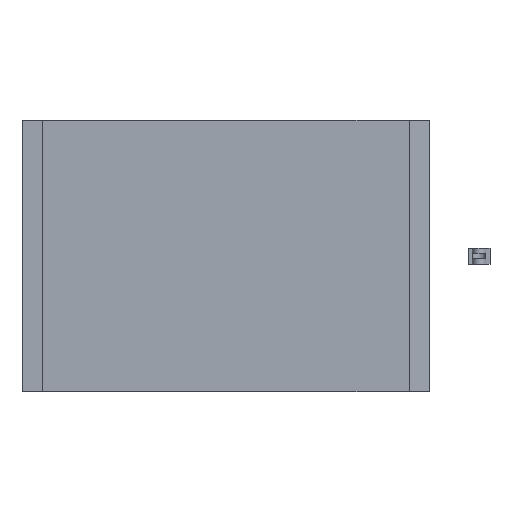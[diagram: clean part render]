
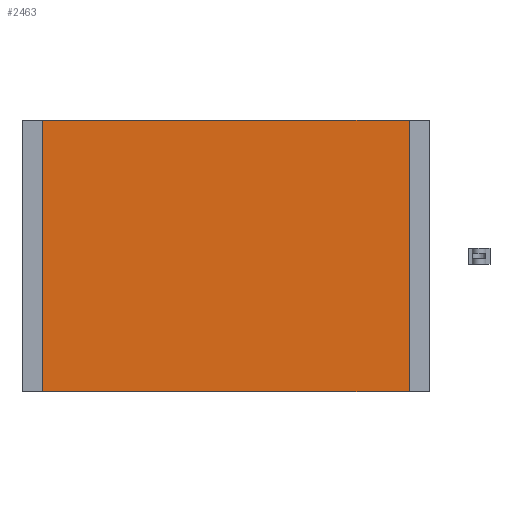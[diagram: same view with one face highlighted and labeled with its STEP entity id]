
A CAD part, top view. The second image highlights one B-rep face of the part: STEP entity #2463.
In plain terms, the highlighted planar face has unit normal (0, 0, 1) as drawn and (0, 1, 0) by its records, which use the part's own axes.
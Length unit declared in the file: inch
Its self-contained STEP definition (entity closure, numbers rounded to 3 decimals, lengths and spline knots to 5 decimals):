
#8 = VERTEX_POINT ( 'NONE', #2616 ) ;
#96 = VERTEX_POINT ( 'NONE', #2515 ) ;
#119 = VERTEX_POINT ( 'NONE', #2627 ) ;
#127 = VERTEX_POINT ( 'NONE', #1014 ) ;
#376 = ORIENTED_EDGE ( 'NONE', *, *, #690, .F. ) ;
#377 = ORIENTED_EDGE ( 'NONE', *, *, #689, .T. ) ;
#378 = ORIENTED_EDGE ( 'NONE', *, *, #677, .T. ) ;
#379 = ORIENTED_EDGE ( 'NONE', *, *, #676, .F. ) ;
#676 = EDGE_CURVE ( 'NONE', #119, #96, #1775, .T. ) ;
#677 = EDGE_CURVE ( 'NONE', #8, #96, #1777, .T. ) ;
#689 = EDGE_CURVE ( 'NONE', #127, #8, #1801, .T. ) ;
#690 = EDGE_CURVE ( 'NONE', #127, #119, #1803, .T. ) ;
#848 = AXIS2_PLACEMENT_3D ( 'NONE', #1490, #1491, #1492 ) ;
#951 = EDGE_LOOP ( 'NONE', ( #376, #377, #378, #379 ) ) ;
#1014 = CARTESIAN_POINT ( 'NONE',  ( 3., 3., -39.37008 ) ) ;
#1351 = CARTESIAN_POINT ( 'NONE',  ( 56.05512, 3., -39.37008 ) ) ;
#1352 = DIRECTION ( 'NONE',  ( 0., 0., 1. ) ) ;
#1353 = CARTESIAN_POINT ( 'NONE',  ( 0., 3., 0. ) ) ;
#1354 = DIRECTION ( 'NONE',  ( 1., 0., 0. ) ) ;
#1377 = CARTESIAN_POINT ( 'NONE',  ( 3., 3., -39.37008 ) ) ;
#1378 = DIRECTION ( 'NONE',  ( 0., 0., 1. ) ) ;
#1379 = CARTESIAN_POINT ( 'NONE',  ( 0., 3., -39.37008 ) ) ;
#1380 = DIRECTION ( 'NONE',  ( 1., 0., 0. ) ) ;
#1489 = PLANE ( 'NONE',  #848 ) ;
#1490 = CARTESIAN_POINT ( 'NONE',  ( 3., 3., -39.37008 ) ) ;
#1491 = DIRECTION ( 'NONE',  ( 0., 1., 0. ) ) ;
#1492 = DIRECTION ( 'NONE',  ( 0., 0., 1. ) ) ;
#1775 = LINE ( 'NONE', #1351, #1776 ) ;
#1776 = VECTOR ( 'NONE', #1352, 39.37008 ) ;
#1777 = LINE ( 'NONE', #1353, #1778 ) ;
#1778 = VECTOR ( 'NONE', #1354, 39.37008 ) ;
#1801 = LINE ( 'NONE', #1377, #1802 ) ;
#1802 = VECTOR ( 'NONE', #1378, 39.37008 ) ;
#1803 = LINE ( 'NONE', #1379, #1804 ) ;
#1804 = VECTOR ( 'NONE', #1380, 39.37008 ) ;
#1884 = FACE_OUTER_BOUND ( 'NONE', #951, .T. ) ;
#2463 = ADVANCED_FACE ( 'NONE', ( #1884 ), #1489, .T. ) ;
#2515 = CARTESIAN_POINT ( 'NONE',  ( 56.05512, 3., 0. ) ) ;
#2616 = CARTESIAN_POINT ( 'NONE',  ( 3., 3., 0. ) ) ;
#2627 = CARTESIAN_POINT ( 'NONE',  ( 56.05512, 3., -39.37008 ) ) ;
